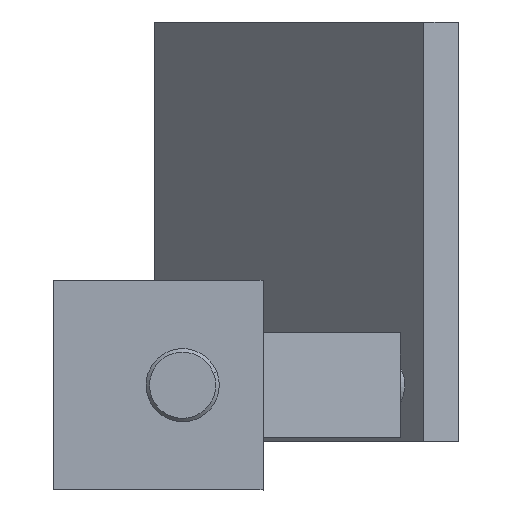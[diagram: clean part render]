
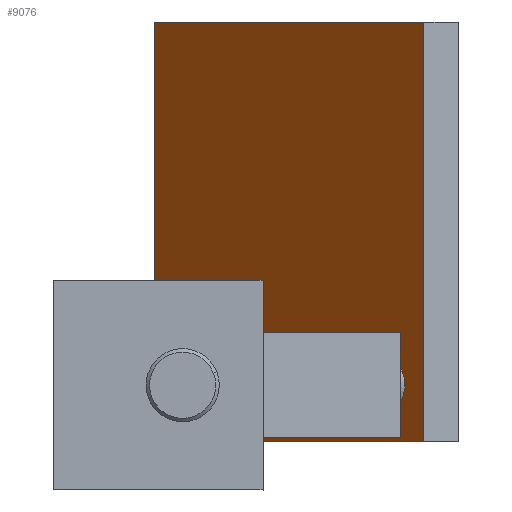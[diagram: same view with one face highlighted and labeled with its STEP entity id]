
A CAD part, left-side view. The second image highlights one B-rep face of the part: STEP entity #9076.
In plain terms, the highlighted planar face has unit normal (-0.643, 0.766, 0).
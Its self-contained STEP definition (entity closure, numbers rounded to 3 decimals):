
#128=CARTESIAN_POINT('',(59.574,-58.744,
0.));
#129=DIRECTION('',(0.643,-0.766,0.));
#130=DIRECTION('',(-0.619,-0.519,0.59));
#131=AXIS2_PLACEMENT_3D('',#128,#129,#130);
#142=CARTESIAN_POINT('',(59.574,-58.744,
0.));
#143=DIRECTION('',(0.643,-0.766,0.));
#144=DIRECTION('',(0.619,0.519,-0.59));
#145=AXIS2_PLACEMENT_3D('',#142,#143,#144);
#155=DIRECTION('',(0.,0.,1.));
#156=VECTOR('',#155,120.);
#157=CARTESIAN_POINT('',(139.243,8.106,-16.));
#158=LINE('',#157,#156);
#179=DIRECTION('',(-0.766,-0.643,0.));
#180=VECTOR('',#179,120.);
#181=CARTESIAN_POINT('',(139.243,8.106,104.));
#182=LINE('',#181,#180);
#187=DIRECTION('',(0.,0.,-1.));
#188=VECTOR('',#187,120.);
#189=CARTESIAN_POINT('',(47.317,-69.029,104.));
#190=LINE('',#189,#188);
#195=DIRECTION('',(0.766,0.643,0.));
#196=VECTOR('',#195,120.);
#197=CARTESIAN_POINT('',(47.317,-69.029,-16.));
#198=LINE('',#197,#196);
#8106=CARTESIAN_POINT('',(54.935,-62.637,4.424));
#8107=CARTESIAN_POINT('',(64.214,-54.851,
-4.424));
#8108=VERTEX_POINT('',#8106);
#8109=VERTEX_POINT('',#8107);
#8562=CARTESIAN_POINT('',(139.243,8.106,-16.));
#8563=VERTEX_POINT('',#8562);
#8564=CARTESIAN_POINT('',(139.243,8.106,104.));
#8565=VERTEX_POINT('',#8564);
#8568=CARTESIAN_POINT('',(47.317,-69.029,
-16.));
#8569=VERTEX_POINT('',#8568);
#8572=CARTESIAN_POINT('',(47.317,-69.029,104.));
#8573=VERTEX_POINT('',#8572);
#9057=CARTESIAN_POINT('',(146.597,14.276,-25.6));
#9058=DIRECTION('',(-0.643,0.766,0.));
#9059=DIRECTION('',(-0.766,-0.643,0.));
#9060=AXIS2_PLACEMENT_3D('',#9057,#9058,#9059);
#9061=PLANE('',#9060);
#9063=ORIENTED_EDGE('',*,*,#9062,.T.);
#9065=ORIENTED_EDGE('',*,*,#9064,.T.);
#9067=ORIENTED_EDGE('',*,*,#9066,.T.);
#9069=ORIENTED_EDGE('',*,*,#9068,.T.);
#9070=EDGE_LOOP('',(#9063,#9065,#9067,#9069));
#9071=FACE_OUTER_BOUND('',#9070,.F.);
#9072=ORIENTED_EDGE('',*,*,#9037,.F.);
#9073=ORIENTED_EDGE('',*,*,#9051,.F.);
#9074=EDGE_LOOP('',(#9072,#9073));
#9075=FACE_BOUND('',#9074,.F.);
#132=CIRCLE('',#131,7.5);
#146=CIRCLE('',#145,7.5);
#9037=EDGE_CURVE('',#8108,#8109,#132,.T.);
#9051=EDGE_CURVE('',#8109,#8108,#146,.T.);
#9062=EDGE_CURVE('',#8563,#8565,#158,.T.);
#9064=EDGE_CURVE('',#8565,#8573,#182,.T.);
#9066=EDGE_CURVE('',#8573,#8569,#190,.T.);
#9068=EDGE_CURVE('',#8569,#8563,#198,.T.);
#9076=ADVANCED_FACE('',(#9071,#9075),#9061,.T.);
